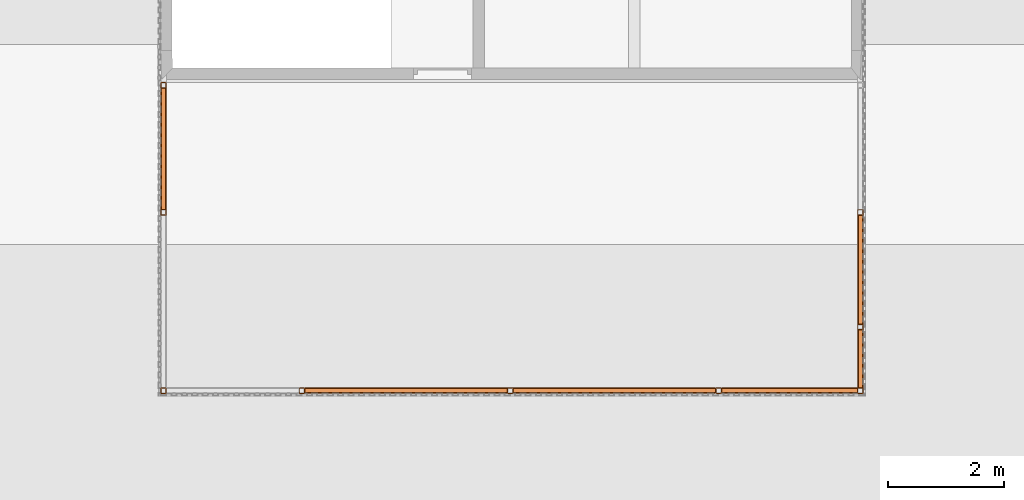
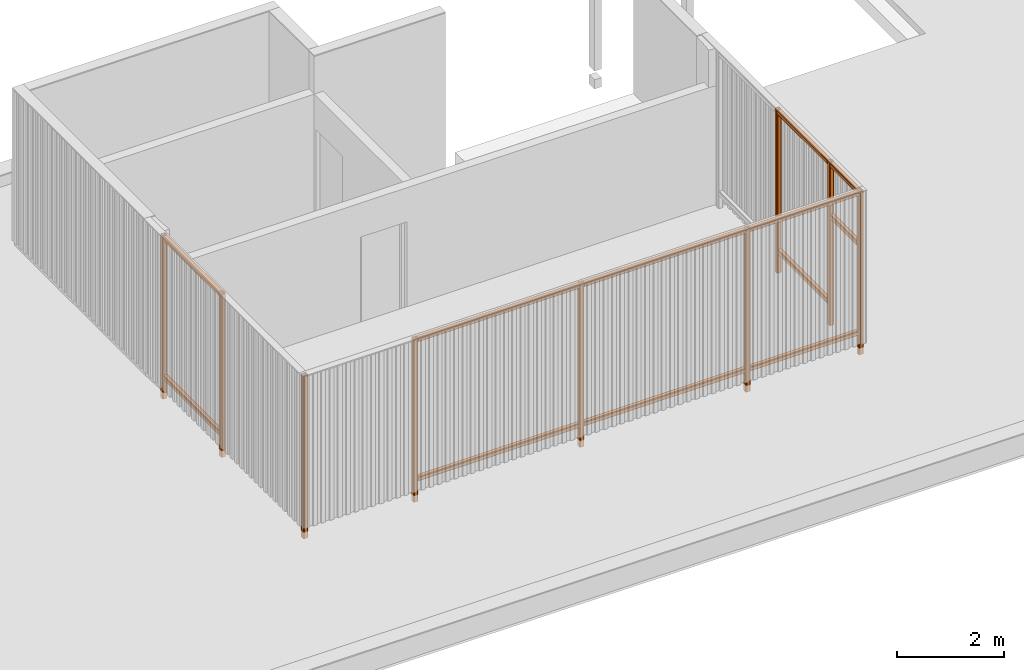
# One storey, part 17 of 22: 21 proxies.
"""IFC2X3 building model written with IfcOpenShell, lengths in millimetres."""

from ifc_helpers import new_model, entity, si_unit, converted_unit, derived_unit, money_unit, direction, frame, origin_with_axes, place, context, subcontext, project, spatial, faceted_brep, source, transform, mapped, material, type_object, type_shapes, element, save


model = new_model("IFC2X3")

# Units and contexts
model_context = context("Model", 3, precision=0.01, world=origin_with_axes(), true_north=direction((0.0, 1.0)))
body_context = subcontext(model_context, "Body", "Model", "MODEL_VIEW")
ifc_project = project(units=[si_unit("LENGTHUNIT", "METRE", prefix="MILLI"), si_unit("AREAUNIT", "SQUARE_METRE"), si_unit("VOLUMEUNIT", "CUBIC_METRE"), converted_unit("PLANEANGLEUNIT", "DEGREE", entity("IfcPlaneAngleMeasure", 0.0174532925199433), si_unit("PLANEANGLEUNIT", "RADIAN"), dimensions=[0, 0, 0, 0, 0, 0, 0]), money_unit("EUR"), converted_unit("TIMEUNIT", "Year", entity("IfcTimeMeasure", 31557600.0), si_unit("TIMEUNIT", "SECOND"), dimensions=[0, 0, 1, 0, 0, 0, 0]), si_unit("MASSUNIT", "GRAM", prefix="KILO"), si_unit("THERMODYNAMICTEMPERATUREUNIT", "DEGREE_CELSIUS"), si_unit("LUMINOUSINTENSITYUNIT", "LUMEN"), si_unit("ENERGYUNIT", "JOULE", prefix="MEGA"), derived_unit("THERMALCONDUCTANCEUNIT", [(si_unit("POWERUNIT", "WATT"), 1), (si_unit("LENGTHUNIT", "METRE"), -1), (si_unit("THERMODYNAMICTEMPERATUREUNIT", "KELVIN"), -1)]), derived_unit("SPECIFICHEATCAPACITYUNIT", [(si_unit("ENERGYUNIT", "JOULE"), 1), (si_unit("MASSUNIT", "GRAM", prefix="KILO"), -1), (si_unit("THERMODYNAMICTEMPERATUREUNIT", "KELVIN"), -1)]), derived_unit("MASSDENSITYUNIT", [(si_unit("MASSUNIT", "GRAM", prefix="KILO"), 1), (si_unit("VOLUMEUNIT", "CUBIC_METRE"), -1)])], contexts=[model_context])

# Site, building, storey
site_placement = place(None, origin_with_axes())
site = spatial("IfcSite", under=ifc_project, at=site_placement, Name="Site", CompositionType="ELEMENT")
building_placement = place(site_placement, origin_with_axes())
building = spatial("IfcBuilding", under=site, at=building_placement, Name="Naam gebouw", CompositionType="ELEMENT")
storey_placement = place(building_placement, frame((0.0, 0.0, 11150.0), z_axis=(0.0, 0.0, 1.0), x_axis=(1.0, 0.0, 0.0)))
storey = spatial("IfcBuildingStorey", under=building, at=storey_placement, Name="3e verdieping/dak N", CompositionType="ELEMENT", Elevation=11150.0)

# Proxies
ifc_material = material(Name="Metaal - Staal AFW")
building_element_proxy_type_1 = type_object("IfcBuildingElementProxyType", Name="Buis vk koudgev balk 26", PredefinedType="NOTDEFINED")
shared_shape_1 = source(origin_with_axes(), body_context, "Body", "Brep", [
    faceted_brep([(0.0, -34.0, 0.0), (-2349.934427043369, -34.00000000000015, 0.0), (-2349.934427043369, 33.99999999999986, 0.0), (0.0, 34.0, 0.0), (0.0, -45.31370849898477, 4.686291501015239), (-2349.934427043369, -45.31370849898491, 4.686291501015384), (-2349.934427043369, -50.00000000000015, 16.00000000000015), (-2349.934427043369, -50.00000000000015, 84.00000000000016), (-2349.934427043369, -45.31370849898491, 95.31370849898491), (-2349.934427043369, -34.00000000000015, 100.0000000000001), (-2349.934427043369, 33.99999999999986, 100.0000000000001), (-2349.934427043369, 45.31370849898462, 95.31370849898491), (-2349.934427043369, 49.99999999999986, 84.00000000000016), (-2349.934427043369, 49.99999999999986, 16.00000000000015), (-2349.934427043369, 45.31370849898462, 4.686291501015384), (-2349.934427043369, -34.00000000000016, 8.000000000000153), (-2349.934427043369, 33.99999999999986, 8.000000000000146), (-2349.934427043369, 39.65685424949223, 10.34314575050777), (-2349.934427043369, 41.99999999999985, 16.00000000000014), (-2349.934427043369, 41.99999999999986, 84.00000000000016), (-2349.934427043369, 39.65685424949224, 89.65685424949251), (-2349.934427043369, 33.99999999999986, 92.00000000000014), (-2349.934427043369, -34.00000000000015, 92.00000000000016), (-2349.934427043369, -39.65685424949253, 89.65685424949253), (-2349.934427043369, -42.00000000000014, 84.00000000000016), (-2349.934427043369, -42.00000000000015, 16.00000000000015), (-2349.934427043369, -39.65685424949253, 10.34314575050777), (0.0, 45.31370849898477, 4.686291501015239), (0.0, 50.0, 16.0), (0.0, 50.0, 84.0), (0.0, 45.31370849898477, 95.31370849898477), (0.0, 34.0, 100.0), (0.0, -34.0, 100.0), (0.0, -45.31370849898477, 95.31370849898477), (0.0, -50.0, 84.0), (0.0, -50.0, 16.0), (0.0, -34.00000000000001, 8.000000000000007), (0.0, -39.65685424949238, 10.34314575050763), (0.0, -42.0, 16.0), (0.0, -41.99999999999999, 84.00000000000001), (0.0, -39.65685424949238, 89.65685424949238), (0.0, -34.0, 92.0), (0.0, 34.00000000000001, 92.0), (0.0, 39.65685424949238, 89.65685424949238), (0.0, 42.0, 84.0), (0.0, 41.99999999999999, 15.99999999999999), (0.0, 39.65685424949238, 10.34314575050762), (0.0, 34.0, 8.0)], [[[0, 1, 2, 3]], [[4, 5, 1, 0]], [[1, 5, 6, 7, 8, 9, 10, 11, 12, 13, 14, 2], [15, 16, 17, 18, 19, 20, 21, 22, 23, 24, 25, 26]], [[3, 2, 14, 27]], [[0, 3, 27, 28, 29, 30, 31, 32, 33, 34, 35, 4], [36, 37, 38, 39, 40, 41, 42, 43, 44, 45, 46, 47]], [[35, 6, 5, 4]], [[34, 7, 6, 35]], [[33, 8, 7, 34]], [[32, 9, 8, 33]], [[31, 10, 9, 32]], [[30, 11, 10, 31]], [[29, 12, 11, 30]], [[28, 13, 12, 29]], [[27, 14, 13, 28]], [[47, 16, 15, 36]], [[46, 17, 16, 47]], [[45, 18, 17, 46]], [[44, 19, 18, 45]], [[43, 20, 19, 44]], [[42, 21, 20, 43]], [[41, 22, 21, 42]], [[40, 23, 22, 41]], [[39, 24, 23, 40]], [[38, 25, 24, 39]], [[37, 26, 25, 38]], [[36, 15, 26, 37]]]),
])
for number, where, z_axis, x_axis, name in (
    (1, (21650.0, 7416.6299365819, 3640.0), (0.0, 0.0, 1.0), (-1.0, 0.0, 0.0), "_Boom-x"),
    (2, (21650.0, 7416.6299365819, 450.0000000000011), (0.0, 0.0, 1.0), (-1.0, 0.0, 0.0), "_Boom-x"),
):
    element("IfcBuildingElementProxy", number, at=place(storey_placement, frame(where, z_axis=z_axis, x_axis=x_axis)), inside=storey, type_object=building_element_proxy_type_1, material=ifc_material, Name=name, context=body_context, shape_type="MappedRepresentation", body=[
        mapped(shared_shape_1, transform((0.0, 0.0, 0.0))),
    ])
shared_shape_2 = source(origin_with_axes(), body_context, "Body", "Brep", [
    faceted_brep([(0.0, -34.0, 0.0), (-3500.0, -34.00000000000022, 0.0), (-3500.0, 33.99999999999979, 0.0), (0.0, 34.0, 0.0), (0.0, -45.31370849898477, 4.686291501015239), (-3500.0, -45.31370849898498, 4.686291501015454), (-3500.0, -50.00000000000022, 16.00000000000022), (-3500.0, -50.00000000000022, 84.00000000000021), (-3500.0, -45.31370849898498, 95.313708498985), (-3500.0, -34.00000000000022, 100.0000000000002), (-3500.0, 33.99999999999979, 100.0000000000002), (-3500.0, 45.31370849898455, 95.313708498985), (-3500.0, 49.99999999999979, 84.00000000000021), (-3500.0, 49.99999999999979, 16.00000000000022), (-3500.0, 45.31370849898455, 4.686291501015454), (-3500.0, -34.00000000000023, 8.000000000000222), (-3500.0, 33.99999999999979, 8.000000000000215), (-3500.0, 39.65685424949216, 10.34314575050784), (-3500.0, 41.99999999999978, 16.00000000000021), (-3500.0, 41.99999999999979, 84.00000000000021), (-3500.0, 39.65685424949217, 89.6568542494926), (-3500.0, 33.99999999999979, 92.00000000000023), (-3500.0, -34.00000000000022, 92.00000000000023), (-3500.0, -39.65685424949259, 89.6568542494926), (-3500.0, -42.00000000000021, 84.00000000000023), (-3500.0, -42.00000000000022, 16.00000000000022), (-3500.0, -39.6568542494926, 10.34314575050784), (0.0, 45.31370849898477, 4.686291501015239), (0.0, 50.0, 16.0), (0.0, 50.0, 84.0), (0.0, 45.31370849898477, 95.31370849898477), (0.0, 34.0, 100.0), (0.0, -34.0, 100.0), (0.0, -45.31370849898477, 95.31370849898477), (0.0, -50.0, 84.0), (0.0, -50.0, 16.0), (0.0, -34.00000000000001, 8.000000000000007), (0.0, -39.65685424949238, 10.34314575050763), (0.0, -42.0, 16.0), (0.0, -41.99999999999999, 84.00000000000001), (0.0, -39.65685424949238, 89.65685424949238), (0.0, -34.0, 92.0), (0.0, 34.00000000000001, 92.0), (0.0, 39.65685424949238, 89.65685424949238), (0.0, 42.0, 84.0), (0.0, 41.99999999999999, 15.99999999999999), (0.0, 39.65685424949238, 10.34314575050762), (0.0, 34.0, 8.0)], [[[0, 1, 2, 3]], [[4, 5, 1, 0]], [[1, 5, 6, 7, 8, 9, 10, 11, 12, 13, 14, 2], [15, 16, 17, 18, 19, 20, 21, 22, 23, 24, 25, 26]], [[3, 2, 14, 27]], [[0, 3, 27, 28, 29, 30, 31, 32, 33, 34, 35, 4], [36, 37, 38, 39, 40, 41, 42, 43, 44, 45, 46, 47]], [[35, 6, 5, 4]], [[34, 7, 6, 35]], [[33, 8, 7, 34]], [[32, 9, 8, 33]], [[31, 10, 9, 32]], [[30, 11, 10, 31]], [[29, 12, 11, 30]], [[28, 13, 12, 29]], [[27, 14, 13, 28]], [[47, 16, 15, 36]], [[46, 17, 16, 47]], [[45, 18, 17, 46]], [[44, 19, 18, 45]], [[43, 20, 19, 44]], [[42, 21, 20, 43]], [[41, 22, 21, 42]], [[40, 23, 22, 41]], [[39, 24, 23, 40]], [[38, 25, 24, 39]], [[37, 26, 25, 38]], [[36, 15, 26, 37]]]),
])
for number, where, z_axis, x_axis, name in (
    (3, (14450.0, 7416.6299365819, 3640.0), (0.0, 0.0, 1.0), (-1.0, 0.0, 0.0), "_Boom-x"),
    (4, (18050.0, 7416.6299365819, 3640.0), (0.0, 0.0, 1.0), (-1.0, 0.0, 0.0), "_Boom-x"),
):
    element("IfcBuildingElementProxy", number, at=place(storey_placement, frame(where, z_axis=z_axis, x_axis=x_axis)), inside=storey, type_object=building_element_proxy_type_1, material=ifc_material, Name=name, context=body_context, shape_type="MappedRepresentation", body=[
        mapped(shared_shape_2, transform((0.0, 0.0, 0.0))),
    ])
building_element_proxy_type_2 = type_object("IfcBuildingElementProxyType", Name="Buis vk koudgev kolom 26", PredefinedType="NOTDEFINED")
shared_shape_3 = source(origin_with_axes(), body_context, "Body", "Brep", [
    faceted_brep([(34.0, -50.0, 0.0), (34.0, -50.0, 3740.0), (-34.0, -50.0, 3740.0), (-34.0, -50.0, 0.0), (45.31370849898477, -45.31370849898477, 0.0), (45.31370849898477, -45.31370849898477, 3740.0), (50.0, -34.0, 3740.0), (50.0, 34.0, 3740.0), (45.31370849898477, 45.31370849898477, 3740.0), (34.0, 50.0, 3740.0), (-34.0, 50.0, 3740.0), (-45.31370849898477, 45.31370849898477, 3740.0), (-50.0, 34.0, 3740.0), (-50.0, -34.0, 3740.0), (-45.31370849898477, -45.31370849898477, 3740.0), (34.00000000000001, -41.99999999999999, 3740.0), (-34.0, -42.0, 3740.0), (-39.65685424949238, -39.65685424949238, 3740.0), (-41.99999999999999, -34.00000000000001, 3740.0), (-42.0, 34.0, 3740.0), (-39.65685424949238, 39.65685424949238, 3740.0), (-34.00000000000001, 41.99999999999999, 3740.0), (34.0, 42.0, 3740.0), (39.65685424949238, 39.65685424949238, 3740.0), (41.99999999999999, 34.00000000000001, 3740.0), (42.0, -34.0, 3740.0), (39.65685424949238, -39.65685424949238, 3740.0), (-45.31370849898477, -45.31370849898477, 0.0), (-50.0, -34.0, 0.0), (-50.0, 34.0, 0.0), (-45.31370849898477, 45.31370849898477, 0.0), (-34.0, 50.0, 0.0), (34.0, 50.0, 0.0), (45.31370849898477, 45.31370849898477, 0.0), (50.0, 34.0, 0.0), (50.0, -34.0, 0.0), (34.00000000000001, -41.99999999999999, 0.0), (39.65685424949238, -39.65685424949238, 0.0), (42.0, -34.0, 0.0), (41.99999999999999, 34.00000000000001, 0.0), (39.65685424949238, 39.65685424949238, 0.0), (34.0, 42.0, 0.0), (-34.00000000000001, 41.99999999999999, 0.0), (-39.65685424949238, 39.65685424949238, 0.0), (-42.0, 34.0, 0.0), (-41.99999999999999, -34.00000000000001, 0.0), (-39.65685424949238, -39.65685424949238, 0.0), (-34.0, -42.0, 0.0)], [[[0, 1, 2, 3]], [[4, 5, 1, 0]], [[1, 5, 6, 7, 8, 9, 10, 11, 12, 13, 14, 2], [15, 16, 17, 18, 19, 20, 21, 22, 23, 24, 25, 26]], [[3, 2, 14, 27]], [[0, 3, 27, 28, 29, 30, 31, 32, 33, 34, 35, 4], [36, 37, 38, 39, 40, 41, 42, 43, 44, 45, 46, 47]], [[35, 6, 5, 4]], [[34, 7, 6, 35]], [[33, 8, 7, 34]], [[32, 9, 8, 33]], [[31, 10, 9, 32]], [[30, 11, 10, 31]], [[29, 12, 11, 30]], [[28, 13, 12, 29]], [[27, 14, 13, 28]], [[47, 16, 15, 36]], [[46, 17, 16, 47]], [[45, 18, 17, 46]], [[44, 19, 18, 45]], [[43, 20, 19, 44]], [[42, 21, 20, 43]], [[41, 22, 21, 42]], [[40, 23, 22, 41]], [[39, 24, 23, 40]], [[38, 25, 24, 39]], [[37, 26, 25, 38]], [[36, 15, 26, 37]]]),
])
for number, where, z_axis, x_axis, name in (
    (5, (12007.73977383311, 10495.91242510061, 0.0), (0.0, 0.0, 1.0), (0.0, -1.0, 0.0), "_Boom-x"),
    (6, (21600.0, 7416.6299365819, 0.0), (0.0, 0.0, 1.0), (0.0, -1.0, 0.0), "_Boom-x"),
    (7, (14400.0, 7416.6299365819, 0.0), (0.0, 0.0, 1.0), (0.0, -1.0, 0.0), "_Boom-x"),
    (8, (18000.0, 7416.6299365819, 0.0), (0.0, 0.0, 1.0), (0.0, -1.0, 0.0), "_Boom-x"),
    (9, (12007.73977383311, 7414.608039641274, 0.0), (0.0, 0.0, 1.0), (0.0, -1.0, 0.0), "_Boom-x"),
    (10, (12007.73977383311, 12694.60803964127, 0.0), (0.0, 0.0, 1.0), (0.0, -1.0, 0.0), "_Boom-x"),
):
    element("IfcBuildingElementProxy", number, at=place(storey_placement, frame(where, z_axis=z_axis, x_axis=x_axis)), inside=storey, type_object=building_element_proxy_type_2, material=ifc_material, Name=name, context=body_context, shape_type="MappedRepresentation", body=[
        mapped(shared_shape_3, transform((0.0, 0.0, 0.0))),
    ])
shared_shape_4 = source(origin_with_axes(), body_context, "Body", "Brep", [
    faceted_brep([(-34.0, -50.0, 0.0), (34.0, -50.0, 0.0), (34.0, -50.0, 3740.0), (-34.0, -50.0, 3740.0), (-45.31370849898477, -45.31370849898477, 0.0), (-50.0, -34.0, 0.0), (-50.0, 34.0, 0.0), (-45.31370849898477, 45.31370849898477, 0.0), (-34.0, 50.0, 0.0), (34.0, 50.0, 0.0), (45.31370849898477, 45.31370849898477, 0.0), (50.0, 34.0, 0.0), (50.0, -34.0, 0.0), (45.31370849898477, -45.31370849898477, 0.0), (-34.00000000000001, -41.99999999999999, 0.0), (34.0, -42.0, 0.0), (39.65685424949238, -39.65685424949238, 0.0), (41.99999999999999, -34.00000000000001, 0.0), (42.0, 34.0, 0.0), (39.65685424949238, 39.65685424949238, 0.0), (34.00000000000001, 41.99999999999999, 0.0), (-34.0, 42.0, 0.0), (-39.65685424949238, 39.65685424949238, 0.0), (-41.99999999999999, 34.00000000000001, 0.0), (-42.0, -34.0, 0.0), (-39.65685424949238, -39.65685424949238, 0.0), (45.31370849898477, -45.31370849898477, 3740.0), (50.0, -34.0, 3740.0), (50.0, 34.0, 3740.0), (45.31370849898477, 45.31370849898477, 3740.0), (34.0, 50.0, 3740.0), (-34.0, 50.0, 3740.0), (-45.31370849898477, 45.31370849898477, 3740.0), (-50.0, 34.0, 3740.0), (-50.0, -34.0, 3740.0), (-45.31370849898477, -45.31370849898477, 3740.0), (-34.00000000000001, -41.99999999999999, 3740.0), (-39.65685424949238, -39.65685424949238, 3740.0), (-42.0, -34.0, 3740.0), (-41.99999999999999, 34.00000000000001, 3740.0), (-39.65685424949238, 39.65685424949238, 3740.0), (-34.0, 42.0, 3740.0), (34.00000000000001, 41.99999999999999, 3740.0), (39.65685424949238, 39.65685424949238, 3740.0), (42.0, 34.0, 3740.0), (41.99999999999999, -34.00000000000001, 3740.0), (39.65685424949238, -39.65685424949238, 3740.0), (34.0, -42.0, 3740.0)], [[[0, 1, 2, 3]], [[0, 4, 5, 6, 7, 8, 9, 10, 11, 12, 13, 1], [14, 15, 16, 17, 18, 19, 20, 21, 22, 23, 24, 25]], [[1, 13, 26, 2]], [[3, 2, 26, 27, 28, 29, 30, 31, 32, 33, 34, 35], [36, 37, 38, 39, 40, 41, 42, 43, 44, 45, 46, 47]], [[4, 0, 3, 35]], [[5, 4, 35, 34]], [[6, 5, 34, 33]], [[7, 6, 33, 32]], [[8, 7, 32, 31]], [[9, 8, 31, 30]], [[10, 9, 30, 29]], [[11, 10, 29, 28]], [[12, 11, 28, 27]], [[13, 12, 27, 26]], [[15, 14, 36, 47]], [[16, 15, 47, 46]], [[17, 16, 46, 45]], [[18, 17, 45, 44]], [[19, 18, 44, 43]], [[20, 19, 43, 42]], [[21, 20, 42, 41]], [[22, 21, 41, 40]], [[23, 22, 40, 39]], [[24, 23, 39, 38]], [[25, 24, 38, 37]], [[14, 25, 37, 36]]]),
])
type_shapes(building_element_proxy_type_2, [shared_shape_3, shared_shape_4])
for number, where, z_axis, x_axis, name in (
    (11, (24049.93442704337, 10495.91242510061, 0.0), (0.0, 0.0, 1.0), (0.0, 1.0, 0.0), "_Boom-x"),
    (12, (24049.93442704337, 7414.608039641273, 0.0), (0.0, 0.0, 1.0), (0.0, 1.0, 0.0), "_Boom-x"),
    (13, (24049.93442704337, 8516.6299365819, 0.0), (0.0, 0.0, 1.0), (0.0, 1.0, 0.0), "_Boom-x"),
):
    element("IfcBuildingElementProxy", number, at=place(storey_placement, frame(where, z_axis=z_axis, x_axis=x_axis)), inside=storey, type_object=building_element_proxy_type_2, material=ifc_material, Name=name, context=body_context, shape_type="MappedRepresentation", body=[
        mapped(shared_shape_4, transform((0.0, 0.0, 0.0))),
    ])
shared_shape_5 = source(origin_with_axes(), body_context, "Body", "Brep", [
    faceted_brep([(0.0, -34.0, 0.0), (-1002.021896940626, -34.00000000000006, 0.0), (-1002.021896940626, 33.99999999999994, 0.0), (0.0, 34.0, 0.0), (0.0, -45.31370849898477, 4.686291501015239), (-1002.021896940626, -45.31370849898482, 4.686291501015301), (-1002.021896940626, -50.00000000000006, 16.00000000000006), (-1002.021896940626, -50.00000000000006, 84.00000000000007), (-1002.021896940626, -45.31370849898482, 95.31370849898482), (-1002.021896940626, -34.00000000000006, 100.0000000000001), (-1002.021896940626, 33.99999999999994, 100.0000000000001), (-1002.021896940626, 45.3137084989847, 95.31370849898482), (-1002.021896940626, 49.99999999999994, 84.00000000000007), (-1002.021896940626, 49.99999999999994, 16.00000000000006), (-1002.021896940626, 45.3137084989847, 4.686291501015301), (-1002.021896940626, -34.00000000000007, 8.00000000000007), (-1002.021896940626, 33.99999999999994, 8.000000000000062), (-1002.021896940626, 39.65685424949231, 10.34314575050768), (-1002.021896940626, 41.99999999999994, 16.00000000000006), (-1002.021896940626, 41.99999999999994, 84.00000000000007), (-1002.021896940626, 39.65685424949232, 89.65685424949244), (-1002.021896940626, 33.99999999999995, 92.00000000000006), (-1002.021896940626, -34.00000000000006, 92.00000000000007), (-1002.021896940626, -39.65685424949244, 89.65685424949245), (-1002.021896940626, -42.00000000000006, 84.00000000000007), (-1002.021896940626, -42.00000000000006, 16.00000000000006), (-1002.021896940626, -39.65685424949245, 10.34314575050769), (0.0, 45.31370849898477, 4.686291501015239), (0.0, 50.0, 16.0), (0.0, 50.0, 84.0), (0.0, 45.31370849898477, 95.31370849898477), (0.0, 34.0, 100.0), (0.0, -34.0, 100.0), (0.0, -45.31370849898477, 95.31370849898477), (0.0, -50.0, 84.0), (0.0, -50.0, 16.0), (0.0, -34.00000000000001, 8.000000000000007), (0.0, -39.65685424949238, 10.34314575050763), (0.0, -42.0, 16.0), (0.0, -41.99999999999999, 84.00000000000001), (0.0, -39.65685424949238, 89.65685424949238), (0.0, -34.0, 92.0), (0.0, 34.00000000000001, 92.0), (0.0, 39.65685424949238, 89.65685424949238), (0.0, 42.0, 84.0), (0.0, 41.99999999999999, 15.99999999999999), (0.0, 39.65685424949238, 10.34314575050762), (0.0, 34.0, 8.0)], [[[0, 1, 2, 3]], [[4, 5, 1, 0]], [[1, 5, 6, 7, 8, 9, 10, 11, 12, 13, 14, 2], [15, 16, 17, 18, 19, 20, 21, 22, 23, 24, 25, 26]], [[3, 2, 14, 27]], [[0, 3, 27, 28, 29, 30, 31, 32, 33, 34, 35, 4], [36, 37, 38, 39, 40, 41, 42, 43, 44, 45, 46, 47]], [[35, 6, 5, 4]], [[34, 7, 6, 35]], [[33, 8, 7, 34]], [[32, 9, 8, 33]], [[31, 10, 9, 32]], [[30, 11, 10, 31]], [[29, 12, 11, 30]], [[28, 13, 12, 29]], [[27, 14, 13, 28]], [[47, 16, 15, 36]], [[46, 17, 16, 47]], [[45, 18, 17, 46]], [[44, 19, 18, 45]], [[43, 20, 19, 44]], [[42, 21, 20, 43]], [[41, 22, 21, 42]], [[40, 23, 22, 41]], [[39, 24, 23, 40]], [[38, 25, 24, 39]], [[37, 26, 25, 38]], [[36, 15, 26, 37]]]),
])
for number, where, z_axis, x_axis, name in (
    (14, (24049.93442704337, 8466.6299365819, 2453.999999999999), (0.0, 0.0, 1.0), (0.0, 1.0, 0.0), "_Boom-x"),
    (15, (24051.956323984, 8466.6299365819, 3640.0), (0.0, 0.0, 1.0), (0.0, 1.0, 0.0), "_Boom-x"),
):
    element("IfcBuildingElementProxy", number, at=place(storey_placement, frame(where, z_axis=z_axis, x_axis=x_axis)), inside=storey, type_object=building_element_proxy_type_1, material=ifc_material, Name=name, context=body_context, shape_type="MappedRepresentation", body=[
        mapped(shared_shape_5, transform((0.0, 0.0, 0.0))),
    ])
shared_shape_6 = source(origin_with_axes(), body_context, "Body", "Brep", [
    faceted_brep([(0.0, -34.0, 0.0), (-3500.000000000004, -34.00000000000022, 0.0), (-3500.000000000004, 33.99999999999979, 0.0), (0.0, 34.0, 0.0), (0.0, -45.31370849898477, 4.686291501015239), (-3500.000000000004, -45.31370849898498, 4.686291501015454), (-3500.000000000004, -50.00000000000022, 16.00000000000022), (-3500.000000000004, -50.00000000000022, 84.00000000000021), (-3500.000000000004, -45.31370849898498, 95.313708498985), (-3500.000000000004, -34.00000000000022, 100.0000000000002), (-3500.000000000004, 33.99999999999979, 100.0000000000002), (-3500.000000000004, 45.31370849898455, 95.313708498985), (-3500.000000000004, 49.99999999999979, 84.00000000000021), (-3500.000000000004, 49.99999999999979, 16.00000000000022), (-3500.000000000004, 45.31370849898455, 4.686291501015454), (-3500.000000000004, -34.00000000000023, 8.000000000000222), (-3500.000000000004, 33.99999999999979, 8.000000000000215), (-3500.000000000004, 39.65685424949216, 10.34314575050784), (-3500.000000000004, 41.99999999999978, 16.00000000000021), (-3500.000000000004, 41.99999999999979, 84.00000000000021), (-3500.000000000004, 39.65685424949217, 89.6568542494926), (-3500.000000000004, 33.99999999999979, 92.00000000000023), (-3500.000000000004, -34.00000000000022, 92.00000000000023), (-3500.000000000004, -39.65685424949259, 89.6568542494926), (-3500.000000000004, -42.00000000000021, 84.00000000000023), (-3500.000000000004, -42.00000000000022, 16.00000000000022), (-3500.000000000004, -39.6568542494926, 10.34314575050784), (0.0, 45.31370849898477, 4.686291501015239), (0.0, 50.0, 16.0), (0.0, 50.0, 84.0), (0.0, 45.31370849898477, 95.31370849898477), (0.0, 34.0, 100.0), (0.0, -34.0, 100.0), (0.0, -45.31370849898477, 95.31370849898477), (0.0, -50.0, 84.0), (0.0, -50.0, 16.0), (0.0, -34.00000000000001, 8.000000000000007), (0.0, -39.65685424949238, 10.34314575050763), (0.0, -42.0, 16.0), (0.0, -41.99999999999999, 84.00000000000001), (0.0, -39.65685424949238, 89.65685424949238), (0.0, -34.0, 92.0), (0.0, 34.00000000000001, 92.0), (0.0, 39.65685424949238, 89.65685424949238), (0.0, 42.0, 84.0), (0.0, 41.99999999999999, 15.99999999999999), (0.0, 39.65685424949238, 10.34314575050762), (0.0, 34.0, 8.0)], [[[0, 1, 2, 3]], [[4, 5, 1, 0]], [[1, 5, 6, 7, 8, 9, 10, 11, 12, 13, 14, 2], [15, 16, 17, 18, 19, 20, 21, 22, 23, 24, 25, 26]], [[3, 2, 14, 27]], [[0, 3, 27, 28, 29, 30, 31, 32, 33, 34, 35, 4], [36, 37, 38, 39, 40, 41, 42, 43, 44, 45, 46, 47]], [[35, 6, 5, 4]], [[34, 7, 6, 35]], [[33, 8, 7, 34]], [[32, 9, 8, 33]], [[31, 10, 9, 32]], [[30, 11, 10, 31]], [[29, 12, 11, 30]], [[28, 13, 12, 29]], [[27, 14, 13, 28]], [[47, 16, 15, 36]], [[46, 17, 16, 47]], [[45, 18, 17, 46]], [[44, 19, 18, 45]], [[43, 20, 19, 44]], [[42, 21, 20, 43]], [[41, 22, 21, 42]], [[40, 23, 22, 41]], [[39, 24, 23, 40]], [[38, 25, 24, 39]], [[37, 26, 25, 38]], [[36, 15, 26, 37]]]),
])
for number, where, z_axis, x_axis, name in (
    (16, (14450.0, 7416.6299365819, 450.0000000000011), (0.0, 0.0, 1.0), (-1.0, 0.0, 0.0), "_Boom-x"),
    (17, (18050.0, 7416.6299365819, 450.0000000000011), (0.0, 0.0, 1.0), (-1.0, 0.0, 0.0), "_Boom-x"),
):
    element("IfcBuildingElementProxy", number, at=place(storey_placement, frame(where, z_axis=z_axis, x_axis=x_axis)), inside=storey, type_object=building_element_proxy_type_1, material=ifc_material, Name=name, context=body_context, shape_type="MappedRepresentation", body=[
        mapped(shared_shape_6, transform((0.0, 0.0, 0.0))),
    ])
shared_shape_7 = source(origin_with_axes(), body_context, "Body", "Brep", [
    faceted_brep([(0.0, -34.0, 0.0), (-2098.695614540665, -34.00000000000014, 0.0), (-2098.695614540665, 33.99999999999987, 0.0), (0.0, 34.0, 0.0), (0.0, -45.31370849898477, 4.686291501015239), (-2098.695614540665, -45.31370849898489, 4.68629150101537), (-2098.695614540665, -50.00000000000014, 16.00000000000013), (-2098.695614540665, -50.00000000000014, 84.00000000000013), (-2098.695614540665, -45.31370849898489, 95.31370849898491), (-2098.695614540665, -34.00000000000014, 100.0000000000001), (-2098.695614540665, 33.99999999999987, 100.0000000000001), (-2098.695614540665, 45.31370849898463, 95.31370849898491), (-2098.695614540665, 49.99999999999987, 84.00000000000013), (-2098.695614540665, 49.99999999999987, 16.00000000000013), (-2098.695614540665, 45.31370849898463, 4.68629150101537), (-2098.695614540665, -34.00000000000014, 8.000000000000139), (-2098.695614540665, 33.99999999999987, 8.000000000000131), (-2098.695614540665, 39.65685424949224, 10.34314575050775), (-2098.695614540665, 41.99999999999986, 16.00000000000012), (-2098.695614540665, 41.99999999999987, 84.00000000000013), (-2098.695614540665, 39.65685424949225, 89.65685424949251), (-2098.695614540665, 33.99999999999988, 92.00000000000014), (-2098.695614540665, -34.00000000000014, 92.00000000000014), (-2098.695614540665, -39.65685424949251, 89.65685424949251), (-2098.695614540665, -42.00000000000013, 84.00000000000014), (-2098.695614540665, -42.00000000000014, 16.00000000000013), (-2098.695614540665, -39.65685424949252, 10.34314575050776), (0.0, 45.31370849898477, 4.686291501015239), (0.0, 50.0, 16.0), (0.0, 50.0, 84.0), (0.0, 45.31370849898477, 95.31370849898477), (0.0, 34.0, 100.0), (0.0, -34.0, 100.0), (0.0, -45.31370849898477, 95.31370849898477), (0.0, -50.0, 84.0), (0.0, -50.0, 16.0), (0.0, -34.00000000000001, 8.000000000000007), (0.0, -39.65685424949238, 10.34314575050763), (0.0, -42.0, 16.0), (0.0, -41.99999999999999, 84.00000000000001), (0.0, -39.65685424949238, 89.65685424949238), (0.0, -34.0, 92.0), (0.0, 34.00000000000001, 92.0), (0.0, 39.65685424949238, 89.65685424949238), (0.0, 42.0, 84.0), (0.0, 41.99999999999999, 15.99999999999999), (0.0, 39.65685424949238, 10.34314575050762), (0.0, 34.0, 8.0)], [[[0, 1, 2, 3]], [[4, 5, 1, 0]], [[1, 5, 6, 7, 8, 9, 10, 11, 12, 13, 14, 2], [15, 16, 17, 18, 19, 20, 21, 22, 23, 24, 25, 26]], [[3, 2, 14, 27]], [[0, 3, 27, 28, 29, 30, 31, 32, 33, 34, 35, 4], [36, 37, 38, 39, 40, 41, 42, 43, 44, 45, 46, 47]], [[35, 6, 5, 4]], [[34, 7, 6, 35]], [[33, 8, 7, 34]], [[32, 9, 8, 33]], [[31, 10, 9, 32]], [[30, 11, 10, 31]], [[29, 12, 11, 30]], [[28, 13, 12, 29]], [[27, 14, 13, 28]], [[47, 16, 15, 36]], [[46, 17, 16, 47]], [[45, 18, 17, 46]], [[44, 19, 18, 45]], [[43, 20, 19, 44]], [[42, 21, 20, 43]], [[41, 22, 21, 42]], [[40, 23, 22, 41]], [[39, 24, 23, 40]], [[38, 25, 24, 39]], [[37, 26, 25, 38]], [[36, 15, 26, 37]]]),
])
for number, where, z_axis, x_axis, name in (
    (18, (12007.73977383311, 12644.60803964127, 449.9999999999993), (0.0, 0.0, 1.0), (0.0, 1.0, 0.0), "_Boom-x"),
    (19, (12007.73977383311, 12644.60803964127, 3640.0), (0.0, 0.0, 1.0), (0.0, 1.0, 0.0), "_Boom-x"),
):
    element("IfcBuildingElementProxy", number, at=place(storey_placement, frame(where, z_axis=z_axis, x_axis=x_axis)), inside=storey, type_object=building_element_proxy_type_1, material=ifc_material, Name=name, context=body_context, shape_type="MappedRepresentation", body=[
        mapped(shared_shape_7, transform((0.0, 0.0, 0.0))),
    ])
shared_shape_8 = source(origin_with_axes(), body_context, "Body", "Brep", [
    faceted_brep([(0.0, -34.0, 0.0), (-1879.282488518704, -34.00000000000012, 0.0), (-1879.282488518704, 33.99999999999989, 0.0), (0.0, 34.0, 0.0), (0.0, -45.31370849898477, 4.686291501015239), (-1879.282488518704, -45.31370849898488, 4.686291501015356), (-1879.282488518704, -50.00000000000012, 16.00000000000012), (-1879.282488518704, -50.00000000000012, 84.00000000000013), (-1879.282488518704, -45.31370849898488, 95.31370849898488), (-1879.282488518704, -34.00000000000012, 100.0000000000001), (-1879.282488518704, 33.99999999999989, 100.0000000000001), (-1879.282488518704, 45.31370849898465, 95.31370849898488), (-1879.282488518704, 49.99999999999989, 84.00000000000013), (-1879.282488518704, 49.99999999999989, 16.00000000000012), (-1879.282488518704, 45.31370849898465, 4.686291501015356), (-1879.282488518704, -34.00000000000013, 8.000000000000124), (-1879.282488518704, 33.99999999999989, 8.000000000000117), (-1879.282488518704, 39.65685424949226, 10.34314575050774), (-1879.282488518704, 41.99999999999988, 16.00000000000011), (-1879.282488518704, 41.99999999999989, 84.00000000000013), (-1879.282488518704, 39.65685424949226, 89.6568542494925), (-1879.282488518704, 33.99999999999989, 92.00000000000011), (-1879.282488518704, -34.00000000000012, 92.00000000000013), (-1879.282488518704, -39.6568542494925, 89.65685424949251), (-1879.282488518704, -42.00000000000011, 84.00000000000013), (-1879.282488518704, -42.00000000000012, 16.00000000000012), (-1879.282488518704, -39.6568542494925, 10.34314575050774), (0.0, 45.31370849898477, 4.686291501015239), (0.0, 50.0, 16.0), (0.0, 50.0, 84.0), (0.0, 45.31370849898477, 95.31370849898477), (0.0, 34.0, 100.0), (0.0, -34.0, 100.0), (0.0, -45.31370849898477, 95.31370849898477), (0.0, -50.0, 84.0), (0.0, -50.0, 16.0), (0.0, -34.00000000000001, 8.000000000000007), (0.0, -39.65685424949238, 10.34314575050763), (0.0, -42.0, 16.0), (0.0, -41.99999999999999, 84.00000000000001), (0.0, -39.65685424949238, 89.65685424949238), (0.0, -34.0, 92.0), (0.0, 34.00000000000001, 92.0), (0.0, 39.65685424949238, 89.65685424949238), (0.0, 42.0, 84.0), (0.0, 41.99999999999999, 15.99999999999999), (0.0, 39.65685424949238, 10.34314575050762), (0.0, 34.0, 8.0)], [[[0, 1, 2, 3]], [[4, 5, 1, 0]], [[1, 5, 6, 7, 8, 9, 10, 11, 12, 13, 14, 2], [15, 16, 17, 18, 19, 20, 21, 22, 23, 24, 25, 26]], [[3, 2, 14, 27]], [[0, 3, 27, 28, 29, 30, 31, 32, 33, 34, 35, 4], [36, 37, 38, 39, 40, 41, 42, 43, 44, 45, 46, 47]], [[35, 6, 5, 4]], [[34, 7, 6, 35]], [[33, 8, 7, 34]], [[32, 9, 8, 33]], [[31, 10, 9, 32]], [[30, 11, 10, 31]], [[29, 12, 11, 30]], [[28, 13, 12, 29]], [[27, 14, 13, 28]], [[47, 16, 15, 36]], [[46, 17, 16, 47]], [[45, 18, 17, 46]], [[44, 19, 18, 45]], [[43, 20, 19, 44]], [[42, 21, 20, 43]], [[41, 22, 21, 42]], [[40, 23, 22, 41]], [[39, 24, 23, 40]], [[38, 25, 24, 39]], [[37, 26, 25, 38]], [[36, 15, 26, 37]]]),
])
type_shapes(building_element_proxy_type_1, [shared_shape_1, shared_shape_2, shared_shape_5, shared_shape_6, shared_shape_7, shared_shape_8])
for number, where, z_axis, x_axis, name in (
    (20, (24051.956323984, 10445.91242510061, 450.0000000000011), (0.0, 0.0, 1.0), (0.0, 1.0, 0.0), "_Boom-x"),
    (21, (24051.956323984, 10445.91242510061, 3640.0), (0.0, 0.0, 1.0), (0.0, 1.0, 0.0), "_Boom-x"),
):
    element("IfcBuildingElementProxy", number, at=place(storey_placement, frame(where, z_axis=z_axis, x_axis=x_axis)), inside=storey, type_object=building_element_proxy_type_1, material=ifc_material, Name=name, context=body_context, shape_type="MappedRepresentation", body=[
        mapped(shared_shape_8, transform((0.0, 0.0, 0.0))),
    ])

save(model, "model.ifc")
